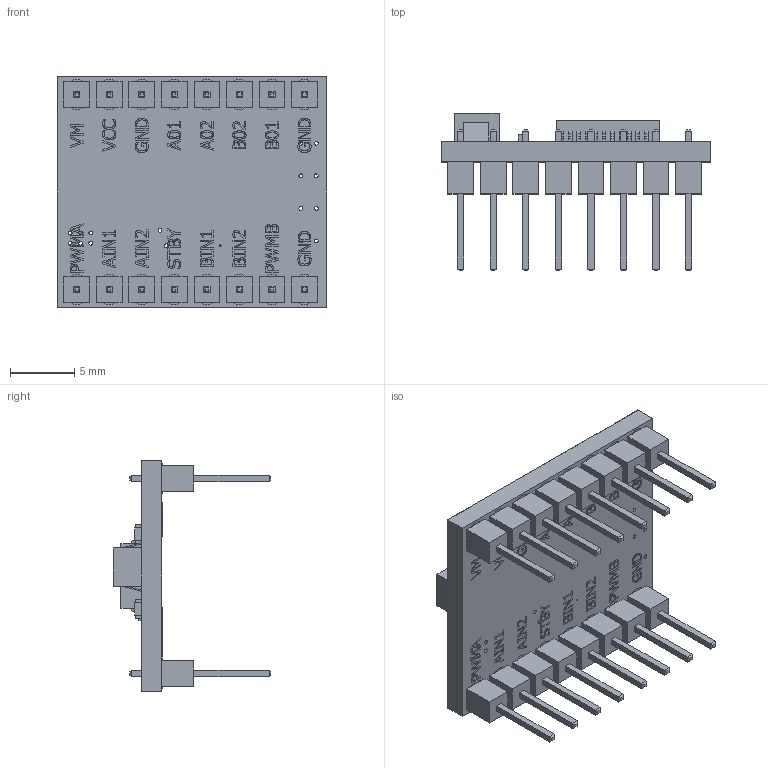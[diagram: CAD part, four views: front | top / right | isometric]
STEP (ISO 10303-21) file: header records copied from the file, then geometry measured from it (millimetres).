
FILE_DESCRIPTION(/* description */ (''),/* implementation_level */ '2;1');
FILE_NAME(/* name */ 'TB6612FNG_pin.stp',/* time_stamp */ '2025-12-20T12:21:42+07:00',/* author */ ('quang'),/* organization */ (''),/* preprocessor_version */ 'ST-DEVELOPER v20',/* originating_system */ 'Autodesk Inventor 2024',/* authorisation */ '');
FILE_SCHEMA (('AUTOMOTIVE_DESIGN { 1 0 10303 214 3 1 1 }'));
Products named in the file (1): TB6612FNG
Bounding box: 21 x 12.31 x 18 mm (x, y, z)
Volume: 877.4 mm3; surface area: 2263.5 mm2
Topology: 104 solids, 104 shells, 2542 faces, 6727 edges, 4442 vertices
Faces by surface type: plane 1845, bspline 464, cylinder 233
Full cylindrical faces by diameter (mm): 0.15 x2, 0.3 x32, 0.8 x17
Entity records: 83131 total; most frequent: CARTESIAN_POINT 19744, ORIENTED_EDGE 13454, DIRECTION 10423, EDGE_CURVE 6727, LINE 5333, VECTOR 5333, VERTEX_POINT 4442, EDGE_LOOP 2841
